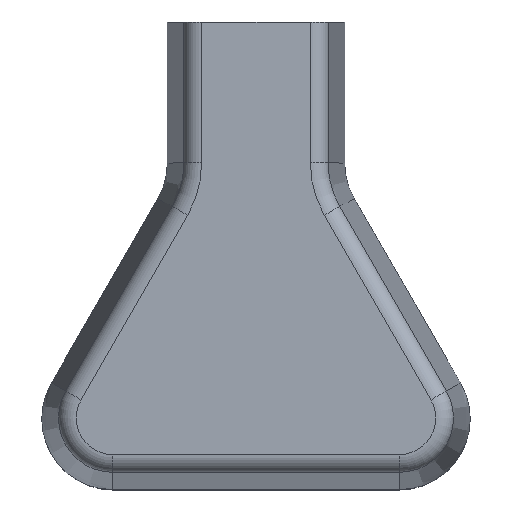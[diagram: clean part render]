
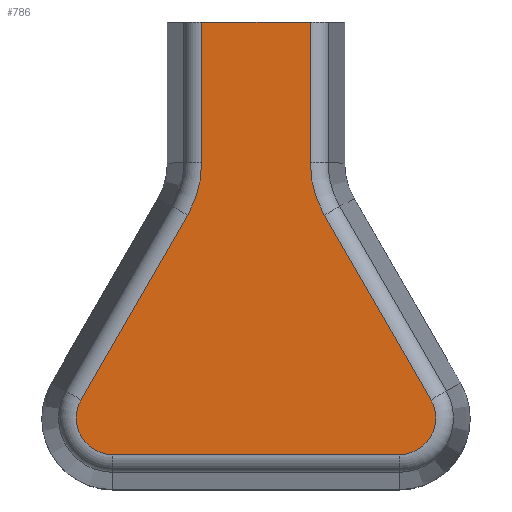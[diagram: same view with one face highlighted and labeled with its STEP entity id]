
A CAD part, top view. The second image highlights one B-rep face of the part: STEP entity #786.
In plain terms, the highlighted planar face has unit normal (0, 0, 1).
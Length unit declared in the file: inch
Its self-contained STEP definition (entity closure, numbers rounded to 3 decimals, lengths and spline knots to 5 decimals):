
#30=PLANE('',#878);
#76=FACE_OUTER_BOUND('',#130,.T.);
#130=EDGE_LOOP('',(#617,#618,#619,#620,#621,#622,#623,#624,#625,#626));
#179=LINE('',#1263,#243);
#183=LINE('',#1275,#247);
#186=LINE('',#1290,#250);
#188=LINE('',#1302,#252);
#190=LINE('',#1314,#254);
#192=LINE('',#1323,#256);
#243=VECTOR('',#999,0.19128);
#247=VECTOR('',#1009,0.24776);
#250=VECTOR('',#1026,0.375);
#252=VECTOR('',#1040,0.50449);
#254=VECTOR('',#1054,0.375);
#256=VECTOR('',#1066,0.24776);
#317=CIRCLE('',#858,0.18561);
#321=CIRCLE('',#864,0.06439);
#325=CIRCLE('',#870,0.06439);
#329=CIRCLE('',#876,0.18561);
#365=VERTEX_POINT('',#1260);
#366=VERTEX_POINT('',#1262);
#371=VERTEX_POINT('',#1274);
#373=VERTEX_POINT('',#1280);
#375=VERTEX_POINT('',#1286);
#377=VERTEX_POINT('',#1292);
#379=VERTEX_POINT('',#1298);
#381=VERTEX_POINT('',#1304);
#383=VERTEX_POINT('',#1310);
#385=VERTEX_POINT('',#1316);
#441=EDGE_CURVE('',#365,#366,#179,.T.);
#447=EDGE_CURVE('',#366,#371,#183,.T.);
#452=EDGE_CURVE('',#371,#373,#317,.T.);
#455=EDGE_CURVE('',#373,#375,#186,.T.);
#458=EDGE_CURVE('',#375,#377,#321,.T.);
#461=EDGE_CURVE('',#377,#379,#188,.T.);
#464=EDGE_CURVE('',#379,#381,#325,.T.);
#467=EDGE_CURVE('',#381,#383,#190,.T.);
#470=EDGE_CURVE('',#383,#385,#329,.T.);
#472=EDGE_CURVE('',#385,#365,#192,.T.);
#617=ORIENTED_EDGE('',*,*,#472,.F.);
#618=ORIENTED_EDGE('',*,*,#470,.F.);
#619=ORIENTED_EDGE('',*,*,#467,.F.);
#620=ORIENTED_EDGE('',*,*,#464,.F.);
#621=ORIENTED_EDGE('',*,*,#461,.F.);
#622=ORIENTED_EDGE('',*,*,#458,.F.);
#623=ORIENTED_EDGE('',*,*,#455,.F.);
#624=ORIENTED_EDGE('',*,*,#452,.F.);
#625=ORIENTED_EDGE('',*,*,#447,.F.);
#626=ORIENTED_EDGE('',*,*,#441,.F.);
#786=ADVANCED_FACE('',(#76),#30,.T.);
#858=AXIS2_PLACEMENT_3D('',#1284,#1019,#1020);
#864=AXIS2_PLACEMENT_3D('',#1296,#1033,#1034);
#870=AXIS2_PLACEMENT_3D('',#1308,#1047,#1048);
#876=AXIS2_PLACEMENT_3D('',#1320,#1061,#1062);
#878=AXIS2_PLACEMENT_3D('',#1324,#1067,#1068);
#999=DIRECTION('',(1.,0.,0.));
#1009=DIRECTION('',(0.,-1.,0.));
#1019=DIRECTION('center_axis',(0.,0.,1.));
#1020=DIRECTION('ref_axis',(-0.966,-0.259,0.));
#1026=DIRECTION('',(0.5,-0.866,0.));
#1033=DIRECTION('center_axis',(0.,0.,-1.));
#1034=DIRECTION('ref_axis',(0.866,-0.5,0.));
#1040=DIRECTION('',(-1.,0.,0.));
#1047=DIRECTION('center_axis',(0.,0.,-1.));
#1048=DIRECTION('ref_axis',(-0.866,-0.5,0.));
#1054=DIRECTION('',(0.5,0.866,0.));
#1061=DIRECTION('center_axis',(0.,0.,1.));
#1062=DIRECTION('ref_axis',(0.966,-0.259,0.));
#1066=DIRECTION('',(0.,1.,0.));
#1067=DIRECTION('center_axis',(0.,0.,1.));
#1068=DIRECTION('ref_axis',(1.,0.,0.));
#1260=CARTESIAN_POINT('',(0.37311,0.82252,1.5));
#1262=CARTESIAN_POINT('',(0.56439,0.82252,1.5));
#1263=CARTESIAN_POINT('',(0.3125,0.82252,1.5));
#1274=CARTESIAN_POINT('',(0.56439,0.57476,1.5));
#1275=CARTESIAN_POINT('',(0.56439,0.36499,1.5));
#1280=CARTESIAN_POINT('',(0.58926,0.48196,1.5));
#1284=CARTESIAN_POINT('Origin',(0.75,0.57476,1.5));
#1286=CARTESIAN_POINT('',(0.77676,0.1572,1.5));
#1290=CARTESIAN_POINT('',(0.69767,0.29418,1.5));
#1292=CARTESIAN_POINT('',(0.72099,0.06061,1.5));
#1296=CARTESIAN_POINT('Origin',(0.72099,0.125,1.5));
#1298=CARTESIAN_POINT('',(0.21651,0.06061,1.5));
#1302=CARTESIAN_POINT('',(0.35156,0.06061,1.5));
#1304=CARTESIAN_POINT('',(0.16074,0.1572,1.5));
#1308=CARTESIAN_POINT('Origin',(0.21651,0.125,1.5));
#1310=CARTESIAN_POINT('',(0.34824,0.48196,1.5));
#1314=CARTESIAN_POINT('',(0.31796,0.4295,1.5));
#1316=CARTESIAN_POINT('',(0.37311,0.57476,1.5));
#1320=CARTESIAN_POINT('Origin',(0.1875,0.57476,1.5));
#1323=CARTESIAN_POINT('',(0.37311,0.42749,1.5));
#1324=CARTESIAN_POINT('Origin',(0.46875,0.30623,1.5));
